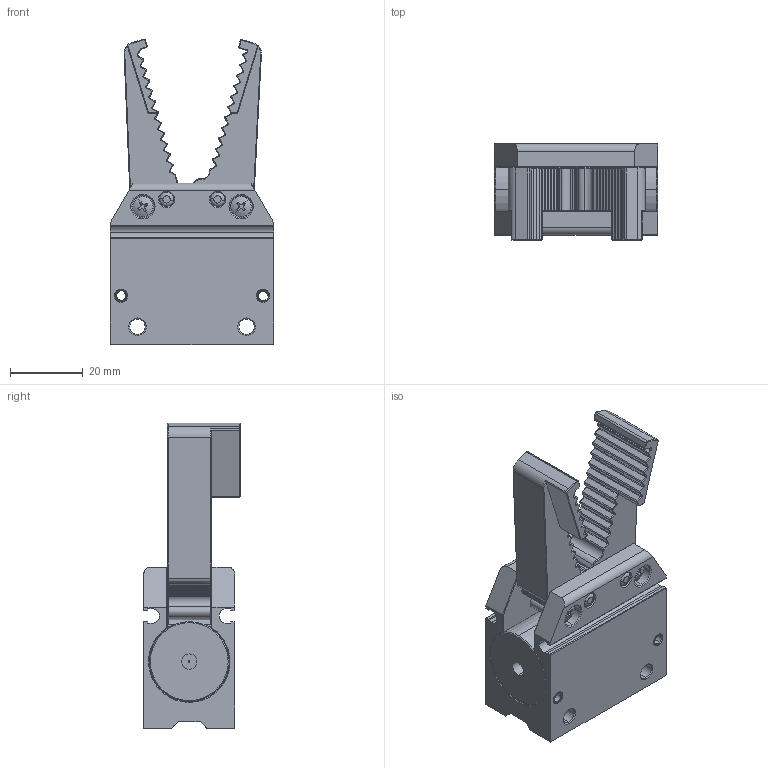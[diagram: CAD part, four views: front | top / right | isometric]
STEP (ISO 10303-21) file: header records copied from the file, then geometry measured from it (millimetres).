
FILE_DESCRIPTION (( 'STEP AP214' ), '1' );
FILE_NAME ('GRA20B水口夹.STEP', '2025-02-20T00:44:48', ( '微软用户' ), ( '微软中国' ), 'SwSTEP 2.0', 'SolidWorks 2018', '' );
FILE_SCHEMA (( 'AUTOMOTIVE_DESIGN' ));
Length unit declared in the file: millimetre
Products named in the file (12): GRA20B阨諳標.sldasm-Part-10; GRA20B阨諳標.sldasm-Part-9; GRA20B阨諳標.sldasm-Part-8; GRA20B阨諳標.sldasm-Part-7; GRA20B阨諳標.sldasm-Part-6; GRA20B阨諳標.sldasm-Part-5; GRA20B阨諳標.sldasm-Part-4; GRA20B阨諳標.sldasm-Part-3; GRA20B阨諳標.sldasm-Part-2; GRA20B阨諳標.sldasm-Part-1; GRA20B阨諳標; GRA20B阨諳標.sldasm-Part-11
Assembly tree (11 placements, depth 2):
  GRA20B阨諳標
    GRA20B阨諳標.sldasm-Part-1
    GRA20B阨諳標.sldasm-Part-2
    GRA20B阨諳標.sldasm-Part-3
    GRA20B阨諳標.sldasm-Part-4
    GRA20B阨諳標.sldasm-Part-5
    GRA20B阨諳標.sldasm-Part-6
    GRA20B阨諳標.sldasm-Part-7
    GRA20B阨諳標.sldasm-Part-8
    GRA20B阨諳標.sldasm-Part-9
    GRA20B阨諳標.sldasm-Part-10
    GRA20B阨諳標.sldasm-Part-11
Bounding box: 45 x 26.5 x 84.08 mm (x, y, z)
Volume: 42667 mm3; surface area: 26782.1 mm2
Topology: 11 solids, 11 shells, 1513 faces, 3320 edges, 1839 vertices
Faces by surface type: cone 744, cylinder 438, plane 318, torus 8, sphere 4, bspline 1
Entity records: 41511 total; most frequent: DIRECTION 7694, CARTESIAN_POINT 7327, ORIENTED_EDGE 6632, EDGE_CURVE 3316, AXIS2_PLACEMENT_3D 2944, VERTEX_POINT 1839, VECTOR 1806, LINE 1806
